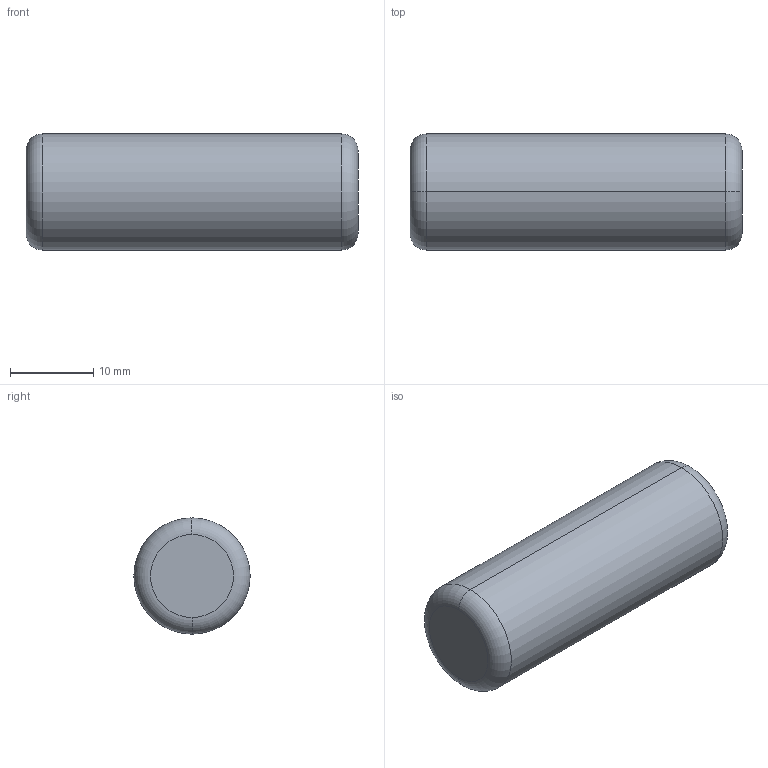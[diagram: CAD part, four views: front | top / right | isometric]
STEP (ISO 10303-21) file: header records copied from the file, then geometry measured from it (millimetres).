
FILE_DESCRIPTION (( 'STEP AP214' ), '1' );
FILE_NAME ('PAS-14x40.STEP', '2020-06-22T11:38:21', ( 'August' ), ( '' ), 'SwSTEP 2.0', 'SolidWorks 2018', '' );
FILE_SCHEMA (( 'AUTOMOTIVE_DESIGN' ));
Length unit declared in the file: millimetre
Products named in the file (1): PAS-14x40
Bounding box: 40 x 14 x 14 mm (x, y, z)
Volume: 6086.8 mm3; surface area: 1988.1 mm2
Topology: 1 solids, 1 shells, 8 faces, 14 edges, 8 vertices
Faces by surface type: torus 4, cylinder 2, plane 2
Entity records: 232 total; most frequent: DIRECTION 44, CARTESIAN_POINT 31, ORIENTED_EDGE 28, AXIS2_PLACEMENT_3D 21, EDGE_CURVE 14, CIRCLE 12, VERTEX_POINT 8, ADVANCED_FACE 8
